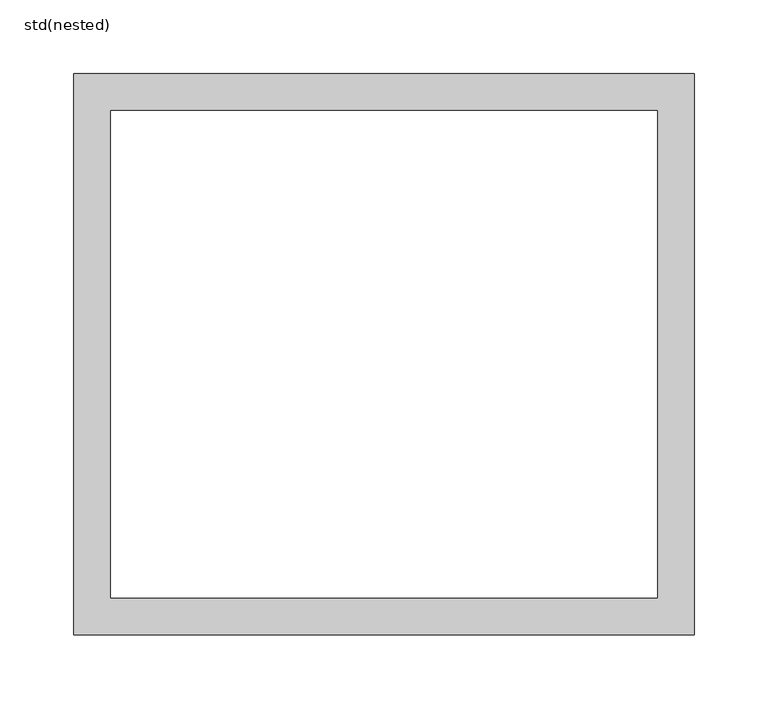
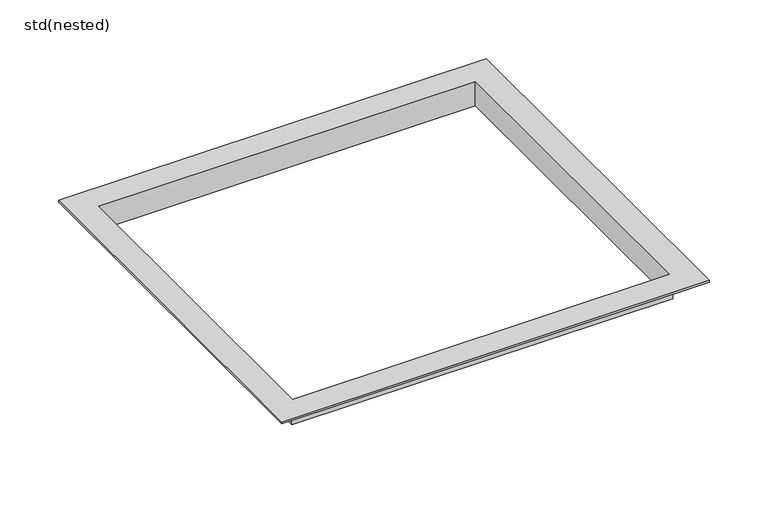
"""IFC4 building model written with IfcOpenShell, lengths in millimetres: furniture geometry, ZZZ_do not use_GM_ST_WPB_flushframe_ACO : std(nested)."""

from ifc_helpers import new_model, si_unit, origin, place, context, project, spatial, faceted_brep, source, transform, mapped, element, save


def std_nested_183a7562(model_context):
    return source(origin(), model_context, "Body", "Brep", [
        faceted_brep([(187.5, 167.5, -25.0), (187.5, 167.5, -2.0), (187.5, -167.5, -2.0), (187.5, -167.5, -25.0), (185.5, 165.5, 0.0), (185.5, 165.5, -25.0), (185.5, -165.5, -25.0), (185.5, -165.5, 0.0), (210.5, 190.5, -2.0), (210.5, 190.5, 0.0), (210.5, -190.5, 0.0), (210.5, -190.5, -2.0), (-187.5, -167.5, -2.0), (-187.5, -167.5, -25.0), (-185.5, -165.5, -25.0), (-185.5, -165.5, 0.0), (-210.5, -190.5, 0.0), (-210.5, -190.5, -2.0), (-187.5, 167.5, -2.0), (-187.5, 167.5, -25.0), (-185.5, 165.5, -25.0), (-185.5, 165.5, 0.0), (-210.5, 190.5, 0.0), (-210.5, 190.5, -2.0)], [[[0, 1, 2, 3]], [[4, 5, 6, 7]], [[8, 9, 10, 11]], [[3, 2, 12, 13]], [[7, 6, 14, 15]], [[11, 10, 16, 17]], [[13, 12, 18, 19]], [[15, 14, 20, 21]], [[17, 16, 22, 23]], [[11, 17, 23, 8], [1, 18, 12, 2]], [[19, 18, 1, 0]], [[3, 13, 19, 0], [5, 20, 14, 6]], [[21, 20, 5, 4]], [[9, 22, 16, 10], [7, 15, 21, 4]], [[23, 22, 9, 8]]]),
    ])


if __name__ == "__main__":
    model = new_model("IFC4")
    model_context = context("Model", 3, world=origin())
    ifc_project = project(units=[si_unit("LENGTHUNIT", "METRE", prefix="MILLI")], contexts=[model_context])
    site = spatial("IfcSite", under=ifc_project)
    building = spatial("IfcBuilding", under=site)
    placement = place(None, origin())
    std_nested_shape = std_nested_183a7562(model_context)
    element("IfcFurniture", 1, ObjectType="ZZZ_do not use_GM_ST_WPB_flushframe_ACO : std(nested)", at=placement, inside=building, context=model_context, shape_type="MappedRepresentation", body=[
        mapped(std_nested_shape, transform((0.0, 0.0, 0.0), x_axis=(1.0, 0.0, 0.0), y_axis=(0.0, 1.0, 0.0), z_axis=(0.0, 0.0, 1.0))),
    ])
    save(model, "model.ifc")
